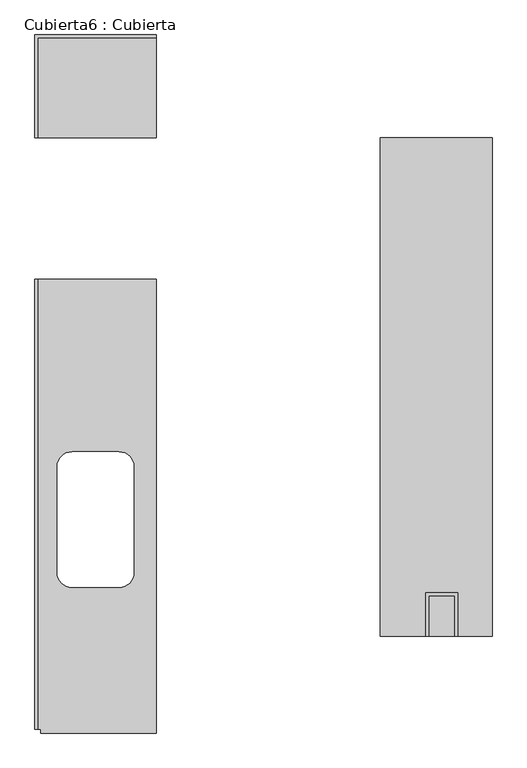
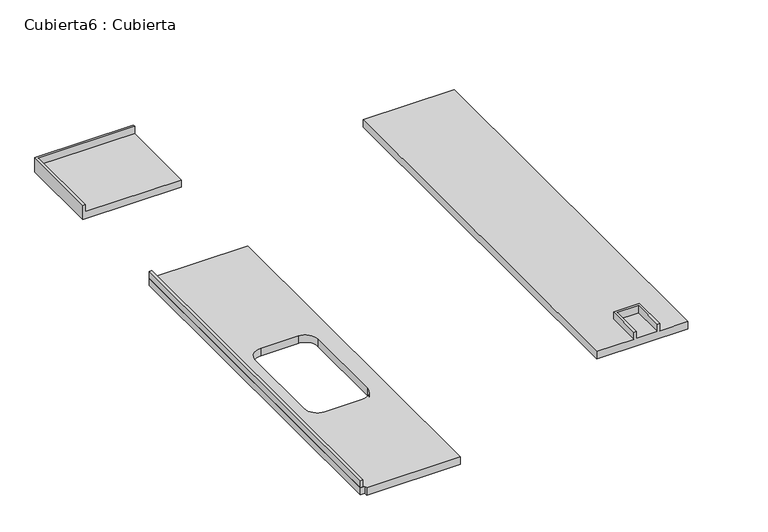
"""IFC4 building model written with IfcOpenShell, lengths in millimetres: furniture geometry, Cubierta6 : Cubierta."""

import ifcopenshell
import ifcopenshell.guid

model = None  # the IFC model being written
_history = None  # IfcOwnerHistory: only IFC2X3 demands one
_inside = {}  # id of a spatial element -> (the spatial element, [elements in it])
_under = {}  # id of a project, library or spatial element -> (it, [spatial elements below it])
_declared = {}  # id of a project -> (the project, [libraries it declares])
_typed = {}  # id of a type object -> (the type object, [elements of that type])
_made_of = {}  # id of a material, layer set ... -> (it, [elements and type objects made of it])


def new_model(schema):
    """Start an empty IFC model of exactly this schema.

    Asked for "IFC4X3", IfcOpenShell would pick the latest addendum, in which some entities
    have other attributes; the version numbers below select the first issue.
    IFC2X3 requires an IfcOwnerHistory on every rooted entity: one is made here for all.
    """
    global model, _history
    if schema == "IFC4X3":
        model = ifcopenshell.file(schema_version=(4, 3, 0, 0))
    else:
        model = ifcopenshell.file(schema=schema)
    _inside.clear()
    _under.clear()
    _declared.clear()
    _typed.clear()
    _made_of.clear()
    _history = None
    if model.schema == "IFC2X3":
        org = make("IfcOrganization", Name="unknown")
        user = make(
            "IfcPersonAndOrganization",
            ThePerson=make("IfcPerson", FamilyName="unknown"),
            TheOrganization=org,
        )
        app = make(
            "IfcApplication",
            ApplicationDeveloper=org,
            Version="unknown",
            ApplicationFullName="unknown",
            ApplicationIdentifier="unknown",
        )
        _history = make(
            "IfcOwnerHistory",
            OwningUser=user,
            OwningApplication=app,
            ChangeAction="ADDED",
            CreationDate=0,
        )
    return model


def make(cls, **values):
    """One entity of the class cls with the attributes given. An attribute that is None is left unset."""
    return model.create_entity(
        cls, **{name: value for name, value in values.items() if value is not None}
    )


def rooted(cls, **values):
    """An entity with a GlobalId (a new one), such as an element, a storey or a relation."""
    return make(cls, GlobalId=ifcopenshell.guid.new(), OwnerHistory=_history, **values)


def si_unit(unit_type, name, prefix=None):
    """IfcSIUnit, for example si_unit("LENGTHUNIT", "METRE", prefix="MILLI")."""
    return make("IfcSIUnit", UnitType=unit_type, Prefix=prefix, Name=name)


def assignment(units):
    """IfcUnitAssignment: the units of a project."""
    return None if units is None else make("IfcUnitAssignment", Units=units)


def point(xyz):
    """IfcCartesianPoint."""
    return None if xyz is None else make("IfcCartesianPoint", Coordinates=xyz)


def direction(xyz):
    """IfcDirection."""
    return None if xyz is None else make("IfcDirection", DirectionRatios=xyz)


def frame(location, z_axis=None, x_axis=None):
    """IfcAxis2Placement3D, a coordinate frame: its origin and axes. An axis left out is left unset."""
    return make(
        "IfcAxis2Placement3D",
        Location=point(location),
        Axis=direction(z_axis),
        RefDirection=direction(x_axis),
    )


def origin():
    """The frame at (0, 0, 0) with its axes left unset."""
    return frame((0.0, 0.0, 0.0))


def place(relative_to, where):
    """IfcLocalPlacement: puts the frame where relative to a parent placement (None: the world)."""
    return make(
        "IfcLocalPlacement", PlacementRelTo=relative_to, RelativePlacement=where
    )


def context(
    kind, dimensions, precision=None, world=None, true_north=None, identifier=None
):
    """IfcGeometricRepresentationContext, for example the 3D "Model" context."""
    return make(
        "IfcGeometricRepresentationContext",
        ContextIdentifier=identifier,
        ContextType=kind,
        CoordinateSpaceDimension=dimensions,
        Precision=precision,
        WorldCoordinateSystem=world,
        TrueNorth=true_north,
    )


def project(units=None, contexts=None):
    """IfcProject with its units and contexts."""
    return rooted(
        "IfcProject",
        Name="project",
        RepresentationContexts=contexts,
        UnitsInContext=assignment(units),
    )


def spatial(cls, under=None, at=None, **own):
    """A site, building, storey or space (cls), placed at a placement, below another one or the project."""
    s = rooted(cls, ObjectPlacement=at, **own)
    if under is not None:
        _under.setdefault(under.id(), (under, []))[1].append(s)
    return s


def polyline(points):
    """IfcPolyline through the points."""
    return make("IfcPolyline", Points=[point(p) for p in points])


def circle_curve(where, radius):
    """IfcCircle in the frame where."""
    return make("IfcCircle", Position=where, Radius=radius)


def outline(outer, holes=None, kind="AREA"):
    """IfcArbitraryClosedProfileDef: a profile drawn as a closed curve; with holes, ...WithVoids."""
    if holes is None:
        return make("IfcArbitraryClosedProfileDef", ProfileType=kind, OuterCurve=outer)
    return make(
        "IfcArbitraryProfileDefWithVoids",
        ProfileType=kind,
        OuterCurve=outer,
        InnerCurves=holes,
    )


def extrude(swept, where, along, depth):
    """IfcExtrudedAreaSolid: the profile swept, set in the frame where, extruded along a direction by depth."""
    return make(
        "IfcExtrudedAreaSolid",
        SweptArea=swept,
        Position=where,
        ExtrudedDirection=direction(along),
        Depth=depth,
    )


def faces_of(points, faces, orient=None, outer=None):
    """IfcFace entities. A face is a list of loops; a loop is a list of indices into points, from 0.

    orient and outer hold one flag for each loop. By default every Orientation is true, the
    first loop of a face is its IfcFaceOuterBound and the others are IfcFaceBound.
    """
    made = []
    for i, loops in enumerate(faces):
        bounds = []
        for j, loop in enumerate(loops):
            is_outer = j == 0 if outer is None else outer[i][j]
            bounds.append(
                make(
                    "IfcFaceOuterBound" if is_outer else "IfcFaceBound",
                    Bound=make("IfcPolyLoop", Polygon=[points[k] for k in loop]),
                    Orientation=True if orient is None else orient[i][j],
                )
            )
        made.append(make("IfcFace", Bounds=bounds))
    return made


def faceted_brep(points, faces, orient=None, outer=None, voids=None):
    """IfcFacetedBrep: a solid bounded by flat faces; with voids (closed shells), ...WithVoids."""
    shared = [point(p) for p in points]
    hull = make("IfcClosedShell", CfsFaces=faces_of(shared, faces, orient, outer))
    if voids is None:
        return make("IfcFacetedBrep", Outer=hull)
    return make(
        "IfcFacetedBrepWithVoids",
        Outer=hull,
        Voids=[
            make(cls, CfsFaces=faces_of(shared, fs, o, b)) for cls, fs, o, b in voids
        ],
    )


def shape(context_of_items, identifier, shape_type, items):
    """IfcShapeRepresentation: the items that make up one representation, for example the "Body"."""
    return make(
        "IfcShapeRepresentation",
        ContextOfItems=context_of_items,
        RepresentationIdentifier=identifier,
        RepresentationType=shape_type,
        Items=items,
    )


def source(mapping_origin, context_of_items, identifier, shape_type, items):
    """IfcRepresentationMap: a shape defined once, which mapped items show again and again."""
    return make(
        "IfcRepresentationMap",
        MappingOrigin=mapping_origin,
        MappedRepresentation=shape(context_of_items, identifier, shape_type, items),
    )


def transform(
    local_origin,
    x_axis=None,
    y_axis=None,
    z_axis=None,
    scale=None,
    scale2=None,
    scale3=None,
    uniform=True,
):
    """IfcCartesianTransformationOperator3D, or its non-uniform kind. x_axis, y_axis, z_axis: its Axis1, 2, 3."""
    if uniform:
        return make(
            "IfcCartesianTransformationOperator3D",
            Axis1=direction(x_axis),
            Axis2=direction(y_axis),
            LocalOrigin=point(local_origin),
            Scale=scale,
            Axis3=direction(z_axis),
        )
    return make(
        "IfcCartesianTransformationOperator3DnonUniform",
        Axis1=direction(x_axis),
        Axis2=direction(y_axis),
        LocalOrigin=point(local_origin),
        Scale=scale,
        Axis3=direction(z_axis),
        Scale2=scale2,
        Scale3=scale3,
    )


def mapped(mapping_source, mapping_target):
    """IfcMappedItem: shows the shape of a source again, moved by a transform."""
    return make(
        "IfcMappedItem", MappingSource=mapping_source, MappingTarget=mapping_target
    )


def made_of(thing, what):
    """Note that an element or type object is made of a material, layer set ...; save() writes the relation."""
    if what is not None:
        _made_of.setdefault(what.id(), (what, []))[1].append(thing)
    return thing


def element(
    cls,
    number,
    at=None,
    inside=None,
    cuts=None,
    type_object=None,
    material=None,
    context=None,
    identifier="Body",
    shape_type=None,
    held_by="IfcProductDefinitionShape",
    body=None,
    shapes=None,
    **own,
):
    """One element of the class cls, such as IfcWall. Its Tag is "e" and its number.

    at: its placement. inside: the storey or other place that contains it. cuts: it is an
    opening in that element (IfcRelVoidsElement). A single representation is given by context,
    identifier, shape_type and body (its items); several are given by shapes. held_by: the class
    of the entity that holds the representations. save() writes the other relations.
    """
    e = rooted(cls, Tag="e%d" % number, ObjectPlacement=at, **own)
    if body is not None:
        shapes = [shape(context, identifier, shape_type, body)]
    if shapes is not None:
        e.Representation = make(held_by, Representations=shapes)
    if inside is not None:
        _inside.setdefault(inside.id(), (inside, []))[1].append(e)
    if cuts is not None:
        rooted(
            "IfcRelVoidsElement", RelatingBuildingElement=cuts, RelatedOpeningElement=e
        )
    if type_object is not None:
        _typed.setdefault(type_object.id(), (type_object, []))[1].append(e)
    return made_of(e, material)


def aggregate(whole, parts):
    """IfcRelAggregates: a whole, such as a stair, and the parts it consists of."""
    return rooted("IfcRelAggregates", RelatingObject=whole, RelatedObjects=parts)


def save(model, path):
    """Write the relations noted so far, then the file.

    IfcRelAggregates (storeys below a building ...), IfcRelContainedInSpatialStructure (elements
    in a storey), IfcRelDefinesByType, IfcRelAssociatesMaterial and IfcRelDeclares: one each for
    every whole, place, type object, material and project.
    """
    for whole, parts in _under.values():
        aggregate(whole, parts)
    for where, things in _inside.values():
        rooted(
            "IfcRelContainedInSpatialStructure",
            RelatedElements=things,
            RelatingStructure=where,
        )
    for kind, things in _typed.values():
        rooted("IfcRelDefinesByType", RelatedObjects=things, RelatingType=kind)
    for what, things in _made_of.values():
        rooted("IfcRelAssociatesMaterial", RelatedObjects=things, RelatingMaterial=what)
    for by, libraries in _declared.values():
        rooted("IfcRelDeclares", RelatingContext=by, RelatedDefinitions=libraries)
    model.write(path)


def plane_surface(at):
    """IfcPlane: the flat surface through the origin of the frame at, square to its z axis."""
    return make("IfcPlane", Position=at)


def revolved_surface(curve, axis_point, axis_direction):
    """IfcSurfaceOfRevolution: the curve turned about the line through axis_point along axis_direction."""
    return make(
        "IfcSurfaceOfRevolution",
        SweptCurve=make("IfcArbitraryOpenProfileDef", ProfileType="CURVE", Curve=curve),
        AxisPosition=make("IfcAxis1Placement", Location=point(axis_point), Axis=direction(axis_direction)),
    )


def advanced_brep(points, edges, surfaces, faces):
    """IfcAdvancedBrep: a solid bounded by faces that lie on surfaces and meet in shared edges.

    An edge is (start, end): straight between two places in points (the first is 0);
    or (start, end, curve); or (start, end, curve, False) where it runs against its curve.
    A face is (place in surfaces, loops), or (place, loops, False) where it looks against
    its surface's normal. A loop lists edges by number (the first is 1), with a minus sign
    where the edge is run from its end to its start. The first loop is the outer one.
    """
    corners = [point(p) for p in points]
    vertices = [make("IfcVertexPoint", VertexGeometry=c) for c in corners]
    made = []
    for start, end, *more in edges:
        made.append(
            make(
                "IfcEdgeCurve",
                EdgeStart=vertices[start],
                EdgeEnd=vertices[end],
                EdgeGeometry=more[0] if more else make("IfcPolyline", Points=[corners[start], corners[end]]),
                SameSense=more[1] if len(more) > 1 else True,
            )
        )
    hull = []
    for where, loops, *sense in faces:
        bounds = []
        for j, loop in enumerate(loops):
            ring = [make("IfcOrientedEdge", EdgeElement=made[abs(k) - 1], Orientation=k > 0) for k in loop]
            bounds.append(
                make(
                    "IfcFaceOuterBound" if j == 0 else "IfcFaceBound",
                    Bound=make("IfcEdgeLoop", EdgeList=ring),
                    Orientation=True,
                )
            )
        hull.append(make("IfcAdvancedFace", Bounds=bounds, FaceSurface=surfaces[where], SameSense=sense[0] if sense else True))
    return make("IfcAdvancedBrep", Outer=make("IfcClosedShell", CfsFaces=hull))


def cubierta6_cubierta_6109c4be(model_context):
    return source(origin(), model_context, "Body", "SolidModel", [
        extrude(outline(polyline([(34143.8589874, 27964.010184), (34158.8589874, 27964.010184), (34158.8589874, 25552.4819737), (34143.8589874, 25552.4819737), (34143.8589874, 27964.010184)])), frame((0.0, 0.0, 9900.0), z_axis=(0.0, 0.0, 1.0), x_axis=(1.0, 0.0, 0.0)), (0.0, 0.0, 1.0), 50.0),
        faceted_brep([(35993.8589874, 28724.010184, 9900.0), (35993.8589874, 26052.4819336, 9900.0), (36239.5300226, 26052.4819336, 9900.0), (36239.5300226, 26284.0176189, 9900.0), (36409.5300226, 26284.0176189, 9900.0), (36409.5300226, 26052.4819336, 9900.0), (36593.8589508, 26052.4819336, 9900.0), (36593.8589508, 28724.010184, 9900.0), (36254.5300226, 26052.4819336, 9900.0), (36394.5300226, 26052.4819336, 9900.0), (36394.5300226, 26269.0176189, 9900.0), (36254.5300226, 26269.0176189, 9900.0), (35993.8589874, 28724.010184, 9850.0), (36593.8589508, 28724.010184, 9850.0), (36593.8589508, 26052.4819336, 9850.0), (35993.8589874, 26052.4819336, 9850.0), (36254.5300226, 26052.4819336, 9950.0), (36239.5300226, 26052.4819336, 9950.0), (36409.5300226, 26052.4819336, 9950.0), (36394.5300226, 26052.4819336, 9950.0), (36254.5300226, 26269.0176189, 9950.0), (36394.5300226, 26269.0176189, 9950.0), (36409.5300226, 26284.0176189, 9950.0), (36239.5300226, 26284.0176189, 9950.0)], [[[0, 1, 2, 3, 4, 5, 6, 7]], [[8, 9, 10, 11]], [[12, 13, 14, 15]], [[1, 0, 12, 15]], [[7, 6, 14, 13]], [[0, 7, 13, 12]], [[16, 17, 2, 1, 15, 14, 6, 5, 18, 19, 9, 8]], [[17, 16, 20, 21, 19, 18, 22, 23]], [[2, 17, 23, 3]], [[16, 8, 11, 20]], [[23, 22, 4, 3]], [[21, 20, 11, 10]], [[18, 5, 4, 22]], [[9, 19, 21, 10]]]),
        advanced_brep(
        [(34793.8589874, 25532.4819737, 9900.0), (34793.8589874, 27964.010184, 9900.0), (34143.8589874, 27964.010184, 9900.0), (34143.8589874, 25552.4819737, 9900.0), (34173.8589874, 25552.4819737, 9900.0), (34173.8589874, 25532.4819737, 9900.0), (34262.8589874, 26959.010184, 9900.0), (34343.8589874, 27040.010184, 9900.0), (34593.8589874, 27040.010184, 9900.0), (34674.8589874, 26959.010184, 9900.0), (34674.8589874, 26394.010184, 9900.0), (34593.8589874, 26313.010184, 9900.0), (34343.8589874, 26313.010184, 9900.0), (34262.8589874, 26394.010184, 9900.0), (34793.8589874, 25532.4819737, 9850.0), (34173.8589874, 25532.4819737, 9850.0), (34173.8589874, 25552.4819737, 9850.0), (34143.8589874, 25552.4819737, 9850.0), (34143.8589874, 27964.010184, 9850.0), (34793.8589874, 27964.010184, 9850.0), (34262.8589874, 26959.010184, 9850.0), (34262.8589874, 26394.010184, 9850.0), (34343.8589874, 26313.010184, 9850.0), (34593.8589874, 26313.010184, 9850.0), (34674.8589874, 26394.010184, 9850.0), (34674.8589874, 26959.010184, 9850.0), (34593.8589874, 27040.010184, 9850.0), (34343.8589874, 27040.010184, 9850.0)],
        [
            (0, 1),
            (1, 2),
            (2, 3),
            (3, 4),
            (4, 5),
            (5, 0),
            (6, 7, circle_curve(frame((34343.8589874, 26959.010184, 9900.0), z_axis=(0.0, 0.0, -1.0), x_axis=(0.0, 1.0, 0.0)), 81.0)),
            (7, 8),
            (8, 9, circle_curve(frame((34593.8589874, 26959.010184, 9900.0), z_axis=(0.0, 0.0, -1.0), x_axis=(0.0, 1.0, 0.0)), 81.0)),
            (9, 10),
            (10, 11, circle_curve(frame((34593.8589874, 26394.010184, 9900.0), z_axis=(0.0, 0.0, -1.0), x_axis=(0.0, 1.0, 0.0)), 81.0)),
            (11, 12),
            (12, 13, circle_curve(frame((34343.8589874, 26394.010184, 9900.0), z_axis=(0.0, 0.0, -1.0), x_axis=(0.0, 1.0, 0.0)), 81.0)),
            (13, 6),
            (14, 15),
            (15, 16),
            (16, 17),
            (17, 18),
            (18, 19),
            (19, 14),
            (20, 21),
            (21, 22, circle_curve(frame((34343.8589874, 26394.010184, 9850.0), z_axis=(0.0, 0.0, 1.0), x_axis=(0.0, 1.0, 0.0)), 81.0)),
            (22, 23),
            (23, 24, circle_curve(frame((34593.8589874, 26394.010184, 9850.0), z_axis=(0.0, 0.0, 1.0), x_axis=(0.0, 1.0, 0.0)), 81.0)),
            (24, 25),
            (25, 26, circle_curve(frame((34593.8589874, 26959.010184, 9850.0), z_axis=(0.0, 0.0, 1.0), x_axis=(0.0, 1.0, 0.0)), 81.0)),
            (26, 27),
            (27, 20, circle_curve(frame((34343.8589874, 26959.010184, 9850.0), z_axis=(0.0, 0.0, 1.0), x_axis=(0.0, 1.0, 0.0)), 81.0)),
            (2, 18),
            (17, 3),
            (16, 4),
            (15, 5),
            (14, 0),
            (19, 1),
            (6, 20),
            (27, 7),
            (26, 8),
            (25, 9),
            (24, 10),
            (23, 11),
            (22, 12),
            (21, 13),
        ],
        [
            plane_surface(frame((35993.8589874, 27819.7057874, 9900.0), z_axis=(0.0, 0.0, 1.0), x_axis=(0.0, -1.0, 0.0))),
            plane_surface(frame((35993.8589874, 27819.7057874, 9850.0), z_axis=(0.0, 0.0, -1.0), x_axis=(0.0, 1.0, 0.0))),
            plane_surface(frame((34143.8589874, 27964.010184, 9900.0), z_axis=(-1.0, 0.0, 0.0), x_axis=(0.0, 0.0, -1.0))),
            plane_surface(frame((34143.8589874, 25552.4819737, 9900.0), z_axis=(0.0, -1.0, 0.0), x_axis=(0.0, 0.0, -1.0))),
            plane_surface(frame((34173.8589874, 25552.4819737, 9900.0), z_axis=(-1.0, 0.0, 0.0), x_axis=(0.0, 0.0, -1.0))),
            plane_surface(frame((34173.8589874, 25532.4819737, 9900.0), z_axis=(0.0, -1.0, 0.0), x_axis=(0.0, 0.0, -1.0))),
            plane_surface(frame((34793.8589874, 25532.4819737, 9900.0), z_axis=(1.0, 0.0, 0.0), x_axis=(0.0, 0.0, -1.0))),
            plane_surface(frame((34793.8589874, 27964.010184, 9900.0), z_axis=(0.0, 1.0, 0.0), x_axis=(0.0, 0.0, -1.0))),
            revolved_surface(polyline([(34343.8589874, 27040.010184, 9850.0), (34343.8589874, 27040.010184, 9900.0)]), (34343.8589874, 26959.010184, 9000.0), (0.0, 0.0, -1.0)),
            plane_surface(frame((34343.8589874, 27040.010184, 9900.0), z_axis=(0.0, -1.0, 0.0), x_axis=(0.0, 0.0, -1.0))),
            revolved_surface(polyline([(34593.8589874, 27040.010184, 9850.0), (34593.8589874, 27040.010184, 9900.0)]), (34593.8589874, 26959.010184, 9000.0), (0.0, 0.0, -1.0)),
            plane_surface(frame((34674.8589874, 26959.010184, 9900.0), z_axis=(-1.0, 0.0, 0.0), x_axis=(0.0, 0.0, -1.0))),
            revolved_surface(polyline([(34593.8589874, 26475.010184, 9850.0), (34593.8589874, 26475.010184, 9900.0)]), (34593.8589874, 26394.010184, 9000.0), (0.0, 0.0, -1.0)),
            plane_surface(frame((34593.8589874, 26313.010184, 9900.0), z_axis=(0.0, 1.0, 0.0), x_axis=(0.0, 0.0, -1.0))),
            revolved_surface(polyline([(34343.8589874, 26475.010184, 9850.0), (34343.8589874, 26475.010184, 9900.0)]), (34343.8589874, 26394.010184, 9000.0), (0.0, 0.0, -1.0)),
            plane_surface(frame((34262.8589874, 26394.010184, 9900.0), z_axis=(1.0, 0.0, 0.0), x_axis=(0.0, 0.0, -1.0))),
        ],
        [
            (0, [[1, 2, 3, 4, 5, 6], [7, 8, 9, 10, 11, 12, 13, 14]]),
            (1, [[15, 16, 17, 18, 19, 20], [21, 22, 23, 24, 25, 26, 27, 28]]),
            (2, [[-3, 29, -18, 30]]),
            (3, [[-4, -30, -17, 31]]),
            (4, [[-5, -31, -16, 32]]),
            (5, [[-6, -32, -15, 33]]),
            (6, [[-1, -33, -20, 34]]),
            (7, [[-2, -34, -19, -29]]),
            (8, [[-7, 35, -28, 36]]),
            (9, [[-8, -36, -27, 37]]),
            (10, [[-9, -37, -26, 38]]),
            (11, [[-10, -38, -25, 39]]),
            (12, [[-11, -39, -24, 40]]),
            (13, [[-12, -40, -23, 41]]),
            (14, [[-13, -41, -22, 42]]),
            (15, [[-14, -42, -21, -35]]),
        ],
    ),
        faceted_brep([(34158.8589874, 28724.010184, 9900.0), (34793.8589874, 28724.010184, 9900.0), (34793.8589874, 29259.010184, 9900.0), (34158.8589874, 29259.010184, 9900.0), (34793.8589874, 29274.010184, 9850.0), (34793.8589874, 28724.010184, 9850.0), (34143.8589874, 28724.010184, 9850.0), (34143.8589874, 29274.010184, 9850.0), (34143.8589874, 29274.010184, 9950.0), (34793.8589874, 29274.010184, 9950.0), (34793.8589874, 29259.010184, 9950.0), (34143.8589874, 28724.010184, 9950.0), (34158.8589874, 28724.010184, 9950.0), (34158.8589874, 29259.010184, 9950.0)], [[[0, 1, 2, 3]], [[4, 5, 6, 7]], [[4, 7, 8, 9]], [[10, 9, 8, 11, 12, 13]], [[2, 10, 13, 3]], [[12, 0, 3, 13]], [[11, 6, 5, 1, 0, 12]], [[5, 4, 9, 10, 2, 1]], [[8, 7, 6, 11]]]),
    ])


if __name__ == "__main__":
    model = new_model("IFC4")
    model_context = context("Model", 3, world=origin())
    ifc_project = project(units=[si_unit("LENGTHUNIT", "METRE", prefix="MILLI")], contexts=[model_context])
    site = spatial("IfcSite", under=ifc_project)
    building = spatial("IfcBuilding", under=site)
    placement = place(None, origin())
    cubierta6_cubierta_shape = cubierta6_cubierta_6109c4be(model_context)
    element("IfcFurniture", 1, ObjectType="Cubierta6 : Cubierta", at=placement, inside=building, context=model_context, shape_type="MappedRepresentation", body=[
        mapped(cubierta6_cubierta_shape, transform((0.0, 0.0, 0.0), x_axis=(1.0, 0.0, 0.0), y_axis=(0.0, 1.0, 0.0), z_axis=(0.0, 0.0, 1.0))),
    ])
    save(model, "model.ifc")
